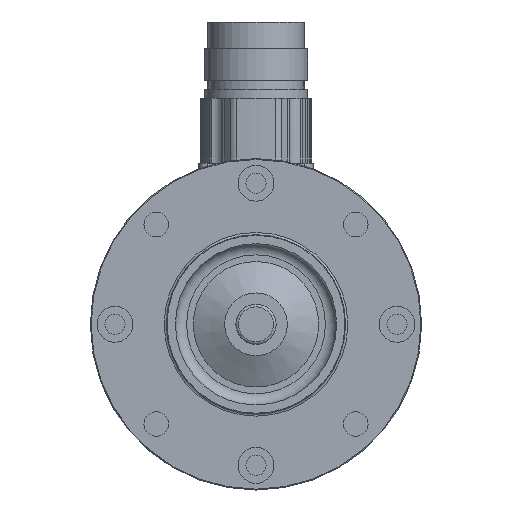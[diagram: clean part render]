
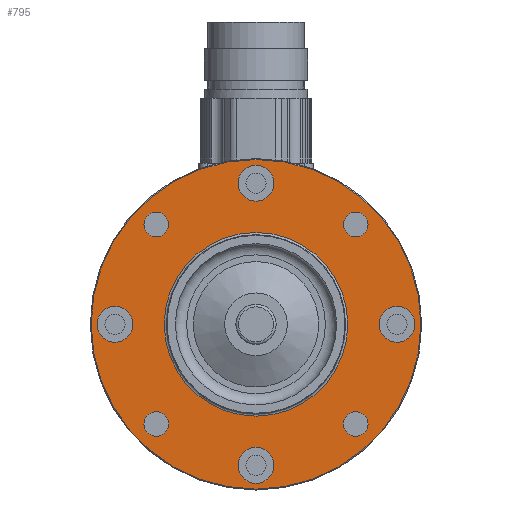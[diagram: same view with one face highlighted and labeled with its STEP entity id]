
A CAD part, front view. The second image highlights one B-rep face of the part: STEP entity #795.
In plain terms, the highlighted planar face has unit normal (0, -1, 0).
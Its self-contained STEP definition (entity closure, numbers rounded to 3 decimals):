
#370=PLANE('',#4790);
#472=FACE_BOUND('',#1485,.T.);
#473=FACE_BOUND('',#1486,.T.);
#474=FACE_BOUND('',#1487,.T.);
#475=FACE_BOUND('',#1488,.T.);
#476=FACE_BOUND('',#1489,.T.);
#477=FACE_BOUND('',#1490,.T.);
#478=FACE_BOUND('',#1491,.T.);
#479=FACE_BOUND('',#1492,.T.);
#480=FACE_BOUND('',#1494,.T.);
#795=ADVANCED_FACE('',(#472,#473,#474,#475,#476,#477,#478,#479,#1268,#480),
#370,.T.);
#1268=FACE_OUTER_BOUND('',#1493,.T.);
#1485=EDGE_LOOP('',(#2414));
#1486=EDGE_LOOP('',(#2415));
#1487=EDGE_LOOP('',(#2416));
#1488=EDGE_LOOP('',(#2417));
#1489=EDGE_LOOP('',(#2418));
#1490=EDGE_LOOP('',(#2419));
#1491=EDGE_LOOP('',(#2420));
#1492=EDGE_LOOP('',(#2421));
#1493=EDGE_LOOP('',(#2422));
#1494=EDGE_LOOP('',(#2423));
#2024=CIRCLE('',#4780,4.);
#2025=CIRCLE('',#4781,4.);
#2026=CIRCLE('',#4782,4.);
#2027=CIRCLE('',#4783,4.);
#2028=CIRCLE('',#4784,2.75);
#2029=CIRCLE('',#4785,2.75);
#2030=CIRCLE('',#4786,2.75);
#2031=CIRCLE('',#4787,2.75);
#2032=CIRCLE('',#4788,36.8);
#2033=CIRCLE('',#4789,20.5);
#2414=ORIENTED_EDGE('',*,*,#3917,.T.);
#2415=ORIENTED_EDGE('',*,*,#3918,.T.);
#2416=ORIENTED_EDGE('',*,*,#3919,.T.);
#2417=ORIENTED_EDGE('',*,*,#3920,.T.);
#2418=ORIENTED_EDGE('',*,*,#3921,.T.);
#2419=ORIENTED_EDGE('',*,*,#3922,.T.);
#2420=ORIENTED_EDGE('',*,*,#3923,.T.);
#2421=ORIENTED_EDGE('',*,*,#3924,.T.);
#2422=ORIENTED_EDGE('',*,*,#3925,.T.);
#2423=ORIENTED_EDGE('',*,*,#3926,.T.);
#3486=VERTEX_POINT('',#7072);
#3487=VERTEX_POINT('',#7074);
#3488=VERTEX_POINT('',#7076);
#3489=VERTEX_POINT('',#7078);
#3490=VERTEX_POINT('',#7080);
#3491=VERTEX_POINT('',#7082);
#3492=VERTEX_POINT('',#7084);
#3493=VERTEX_POINT('',#7086);
#3494=VERTEX_POINT('',#7088);
#3495=VERTEX_POINT('',#7090);
#3917=EDGE_CURVE('',#3486,#3486,#2024,.T.);
#3918=EDGE_CURVE('',#3487,#3487,#2025,.T.);
#3919=EDGE_CURVE('',#3488,#3488,#2026,.T.);
#3920=EDGE_CURVE('',#3489,#3489,#2027,.T.);
#3921=EDGE_CURVE('',#3490,#3490,#2028,.T.);
#3922=EDGE_CURVE('',#3491,#3491,#2029,.T.);
#3923=EDGE_CURVE('',#3492,#3492,#2030,.T.);
#3924=EDGE_CURVE('',#3493,#3493,#2031,.T.);
#3925=EDGE_CURVE('',#3494,#3494,#2032,.T.);
#3926=EDGE_CURVE('',#3495,#3495,#2033,.T.);
#4780=AXIS2_PLACEMENT_3D('',#7071,#5512,#5513);
#4781=AXIS2_PLACEMENT_3D('',#7073,#5514,#5515);
#4782=AXIS2_PLACEMENT_3D('',#7075,#5516,#5517);
#4783=AXIS2_PLACEMENT_3D('',#7077,#5518,#5519);
#4784=AXIS2_PLACEMENT_3D('',#7079,#5520,#5521);
#4785=AXIS2_PLACEMENT_3D('',#7081,#5522,#5523);
#4786=AXIS2_PLACEMENT_3D('',#7083,#5524,#5525);
#4787=AXIS2_PLACEMENT_3D('',#7085,#5526,#5527);
#4788=AXIS2_PLACEMENT_3D('',#7087,#5528,#5529);
#4789=AXIS2_PLACEMENT_3D('',#7089,#5530,#5531);
#4790=AXIS2_PLACEMENT_3D('',#7091,#5532,#5533);
#5512=DIRECTION('',(0.,1.,0.));
#5513=DIRECTION('',(-1.,0.,0.));
#5514=DIRECTION('',(0.,1.,0.));
#5515=DIRECTION('',(0.,0.,-1.));
#5516=DIRECTION('',(0.,1.,0.));
#5517=DIRECTION('',(1.,0.,0.));
#5518=DIRECTION('',(0.,1.,0.));
#5519=DIRECTION('',(0.,0.,1.));
#5520=DIRECTION('',(0.,1.,0.));
#5521=DIRECTION('',(-1.,0.,0.));
#5522=DIRECTION('',(0.,1.,0.));
#5523=DIRECTION('',(0.,0.,-1.));
#5524=DIRECTION('',(0.,1.,0.));
#5525=DIRECTION('',(1.,0.,0.));
#5526=DIRECTION('',(0.,1.,0.));
#5527=DIRECTION('',(0.,0.,1.));
#5528=DIRECTION('',(0.,-1.,0.));
#5529=DIRECTION('',(0.,0.,-1.));
#5530=DIRECTION('',(0.,1.,0.));
#5531=DIRECTION('',(0.,0.,-1.));
#5532=DIRECTION('',(0.,-1.,0.));
#5533=DIRECTION('',(0.,0.,-1.));
#7071=CARTESIAN_POINT('',(-31.5,0.,0.));
#7072=CARTESIAN_POINT('',(-35.5,0.,0.));
#7073=CARTESIAN_POINT('',(0.,0.,-31.5));
#7074=CARTESIAN_POINT('',(0.,0.,-35.5));
#7075=CARTESIAN_POINT('',(31.5,0.,0.));
#7076=CARTESIAN_POINT('',(35.5,0.,0.));
#7077=CARTESIAN_POINT('',(0.,0.,31.5));
#7078=CARTESIAN_POINT('',(0.,0.,35.5));
#7079=CARTESIAN_POINT('',(-22.274,0.,-22.274));
#7080=CARTESIAN_POINT('',(-25.024,0.,-22.274));
#7081=CARTESIAN_POINT('',(22.274,0.,-22.274));
#7082=CARTESIAN_POINT('',(22.274,0.,-25.024));
#7083=CARTESIAN_POINT('',(22.274,0.,22.274));
#7084=CARTESIAN_POINT('',(25.024,0.,22.274));
#7085=CARTESIAN_POINT('',(-22.274,0.,22.274));
#7086=CARTESIAN_POINT('',(-22.274,0.,25.024));
#7087=CARTESIAN_POINT('',(0.,0.,0.));
#7088=CARTESIAN_POINT('',(0.,0.,-36.8));
#7089=CARTESIAN_POINT('',(0.,0.,0.));
#7090=CARTESIAN_POINT('',(0.,0.,-20.5));
#7091=CARTESIAN_POINT('',(0.,0.,0.));
